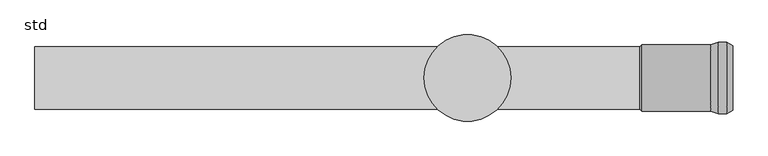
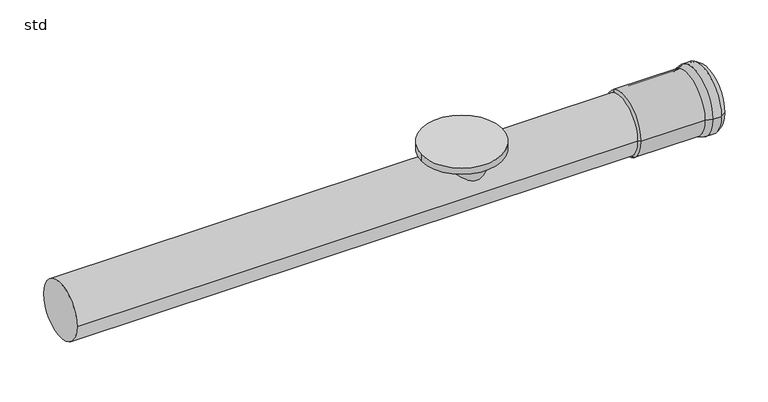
"""IFC4 building model written with IfcOpenShell, lengths in millimetres: pipe fitting geometry, PIF_ST_UN_GM-X raindown pipe_ACO : std."""

from ifc_helpers import new_model, si_unit, point, frame, origin, origin_2d, place, context, project, spatial, polyline, circle_curve, trimmed, segment, composite_curve, outline, extrude, source, transform, mapped, element, save
from ifc_brep_helpers import plane_surface, cylinder_surface, revolved_surface, advanced_brep


def std_49879931(model_context):
    return source(origin(), model_context, "Body", "SolidModel", [
        advanced_brep(
        [(544.2, -51.3, 0.0), (544.2, 51.3, 0.0), (556.8, 51.3, 0.0), (556.8, -51.3, 0.0), (534.0, -47.8, 0.0), (534.0, 47.8, 0.0), (565.0, 46.0, 0.0), (565.0, -46.0, 0.0), (435.0, -47.8, 0.0), (435.0, 47.8, 0.0), (431.7, -44.5, 0.0), (431.7, 44.5, 0.0), (435.0, -44.5, 0.0), (435.0, 44.5, 0.0), (534.3002318, -46.0, 0.0), (534.3002318, 46.0, 0.0), (435.0, 46.0, 0.0), (435.0, -46.0, 0.0), (544.5002318, -49.5, 0.0), (544.5002318, 49.5, 0.0), (556.2689293, -49.5, 0.0), (556.2689293, 49.5, 0.0), (564.0229122, -44.4882793, 0.0), (564.0229122, 44.4882793, 0.0)],
        [
            (0, 1, circle_curve(frame((544.2, 0.0, 0.0), z_axis=(1.0, 0.0, 0.0), x_axis=(0.0, 1.0, 0.0)), 51.3)),
            (1, 2),
            (2, 3, circle_curve(frame((556.8, 0.0, 0.0), z_axis=(-1.0, 0.0, 0.0), x_axis=(0.0, 1.0, 0.0)), 51.3)),
            (3, 0),
            (1, 0, circle_curve(frame((544.2, 0.0, 0.0), z_axis=(1.0, 0.0, 0.0), x_axis=(0.0, 1.0, 0.0)), 51.3)),
            (3, 2, circle_curve(frame((556.8, 0.0, 0.0), z_axis=(-1.0, 0.0, 0.0), x_axis=(0.0, 1.0, 0.0)), 51.3)),
            (4, 5, circle_curve(frame((534.0, 0.0, 0.0), z_axis=(1.0, 0.0, 0.0), x_axis=(0.0, 1.0, 0.0)), 47.8)),
            (5, 1),
            (0, 4),
            (5, 4, circle_curve(frame((534.0, 0.0, 0.0), z_axis=(1.0, 0.0, 0.0), x_axis=(0.0, 1.0, 0.0)), 47.8)),
            (2, 6),
            (6, 7, circle_curve(frame((565.0, 0.0, 0.0), z_axis=(-1.0, 0.0, 0.0), x_axis=(0.0, 1.0, 0.0)), 46.0)),
            (7, 3),
            (7, 6, circle_curve(frame((565.0, 0.0, 0.0), z_axis=(-1.0, 0.0, 0.0), x_axis=(0.0, 1.0, 0.0)), 46.0)),
            (8, 9, circle_curve(frame((435.0, 0.0, 0.0), z_axis=(1.0, 0.0, 0.0), x_axis=(0.0, 1.0, 0.0)), 47.8)),
            (9, 5),
            (4, 8),
            (9, 8, circle_curve(frame((435.0, 0.0, 0.0), z_axis=(1.0, 0.0, 0.0), x_axis=(0.0, 1.0, 0.0)), 47.8)),
            (10, 11, circle_curve(frame((431.7, 0.0, 0.0), z_axis=(1.0, 0.0, 0.0), x_axis=(0.0, 1.0, 0.0)), 44.5)),
            (11, 9),
            (8, 10),
            (11, 10, circle_curve(frame((431.7, 0.0, 0.0), z_axis=(1.0, 0.0, 0.0), x_axis=(0.0, 1.0, 0.0)), 44.5)),
            (12, 13, circle_curve(frame((435.0, 0.0, 0.0), z_axis=(1.0, 0.0, 0.0), x_axis=(0.0, 1.0, 0.0)), 44.5)),
            (13, 11),
            (10, 12),
            (13, 12, circle_curve(frame((435.0, 0.0, 0.0), z_axis=(1.0, 0.0, 0.0), x_axis=(0.0, 1.0, 0.0)), 44.5)),
            (14, 15, circle_curve(frame((534.3002318, 0.0, 0.0), z_axis=(1.0, 0.0, 0.0), x_axis=(0.0, 1.0, 0.0)), 46.0)),
            (15, 16),
            (16, 17, circle_curve(frame((435.0, 0.0, 0.0), z_axis=(-1.0, 0.0, 0.0), x_axis=(0.0, 1.0, 0.0)), 46.0)),
            (17, 14),
            (15, 14, circle_curve(frame((534.3002318, 0.0, 0.0), z_axis=(1.0, 0.0, 0.0), x_axis=(0.0, 1.0, 0.0)), 46.0)),
            (17, 16, circle_curve(frame((435.0, 0.0, 0.0), z_axis=(-1.0, 0.0, 0.0), x_axis=(0.0, 1.0, 0.0)), 46.0)),
            (18, 19, circle_curve(frame((544.5002318, 0.0, 0.0), z_axis=(1.0, 0.0, 0.0), x_axis=(0.0, 1.0, 0.0)), 49.5)),
            (19, 15),
            (14, 18),
            (19, 18, circle_curve(frame((544.5002318, 0.0, 0.0), z_axis=(1.0, 0.0, 0.0), x_axis=(0.0, 1.0, 0.0)), 49.5)),
            (20, 21, circle_curve(frame((556.2689293, 0.0, 0.0), z_axis=(1.0, 0.0, 0.0), x_axis=(0.0, 1.0, 0.0)), 49.5)),
            (21, 19),
            (18, 20),
            (21, 20, circle_curve(frame((556.2689293, 0.0, 0.0), z_axis=(1.0, 0.0, 0.0), x_axis=(0.0, 1.0, 0.0)), 49.5)),
            (22, 23, circle_curve(frame((564.0229122, 0.0, 0.0), z_axis=(1.0, 0.0, 0.0), x_axis=(0.0, 1.0, 0.0)), 44.4882793)),
            (23, 21),
            (20, 22),
            (23, 22, circle_curve(frame((564.0229122, 0.0, 0.0), z_axis=(1.0, 0.0, 0.0), x_axis=(0.0, 1.0, 0.0)), 44.4882793)),
            (6, 23),
            (22, 7),
            (16, 13),
            (12, 17),
        ],
        [
            cylinder_surface(frame((561.6444117, 0.0, 0.0), z_axis=(-1.0, 0.0, 0.0), x_axis=(0.0, 1.0, 0.0)), 51.3),
            revolved_surface(polyline([(544.2, 51.3, 0.0), (534.0, 47.8, 0.0)]), (561.6444117, 0.0, 0.0), (-1.0, 0.0, 0.0)),
            revolved_surface(polyline([(565.0, 46.0, 0.0), (556.8, 51.3, 0.0)]), (561.6444117, 0.0, 0.0), (-1.0, 0.0, 0.0)),
            cylinder_surface(frame((561.6444117, 0.0, 0.0), z_axis=(-1.0, 0.0, 0.0), x_axis=(0.0, 1.0, 0.0)), 47.8),
            revolved_surface(polyline([(435.0, 47.8, 0.0), (431.7, 44.5, 0.0)]), (561.6444117, 0.0, 0.0), (-1.0, 0.0, 0.0)),
            revolved_surface(polyline([(431.7, 44.5, 0.0), (435.0, 44.5, 0.0)]), (561.6444117, 0.0, 0.0), (-1.0, 0.0, 0.0)),
            revolved_surface(polyline([(435.0, 46.0, 0.0), (534.3002318, 46.0, 0.0)]), (561.6444117, 0.0, 0.0), (-1.0, 0.0, 0.0)),
            revolved_surface(polyline([(534.3002318, 46.0, 0.0), (544.5002318, 49.5, 0.0)]), (561.6444117, 0.0, 0.0), (-1.0, 0.0, 0.0)),
            revolved_surface(polyline([(544.5002318, 49.5, 0.0), (556.2689293, 49.5, 0.0)]), (561.6444117, 0.0, 0.0), (-1.0, 0.0, 0.0)),
            revolved_surface(polyline([(556.2689293, 49.5, 0.0), (564.0229122, 44.4882793, 0.0)]), (561.6444117, 0.0, 0.0), (-1.0, 0.0, 0.0)),
            revolved_surface(polyline([(564.0229122, 44.4882793, 0.0), (565.0, 46.0, 0.0)]), (561.6444117, 0.0, 0.0), (-1.0, 0.0, 0.0)),
            plane_surface(frame((435.0, 0.0, 0.0), z_axis=(1.0, 0.0, 0.0), x_axis=(0.0, 1.0, 0.0))),
        ],
        [
            (0, [[1, 2, 3, 4]]),
            (0, [[5, -4, 6, -2]]),
            (1, [[7, 8, -1, 9]]),
            (1, [[10, -9, -5, -8]]),
            (2, [[-3, 11, 12, 13]]),
            (2, [[-6, -13, 14, -11]]),
            (3, [[15, 16, -7, 17]]),
            (3, [[18, -17, -10, -16]]),
            (4, [[19, 20, -15, 21]]),
            (4, [[22, -21, -18, -20]]),
            (5, [[23, 24, -19, 25]]),
            (5, [[26, -25, -22, -24]]),
            (6, [[27, 28, 29, 30]]),
            (6, [[31, -30, 32, -28]]),
            (7, [[33, 34, -27, 35]]),
            (7, [[36, -35, -31, -34]]),
            (8, [[37, 38, -33, 39]]),
            (8, [[40, -39, -36, -38]]),
            (9, [[41, 42, -37, 43]]),
            (9, [[44, -43, -40, -42]]),
            (10, [[-12, 45, -41, 46]]),
            (10, [[-14, -46, -44, -45]]),
            (11, [[-29, 47, -23, 48]]),
            (11, [[-32, -48, -26, -47]]),
        ],
    ),
        advanced_brep(
        [(123.0, 0.0, 58.0), (247.0, 0.0, 58.0), (123.0, 0.0, 48.0), (247.0, 0.0, 48.0), (145.2, 0.0, 48.0), (224.8, 0.0, 48.0), (145.2, 0.0, 0.0), (224.8, 0.0, 0.0)],
        [
            (0, 1, circle_curve(frame((185.0, 0.0, 58.0), z_axis=(0.0, 0.0, 1.0), x_axis=(1.0, 0.0, 0.0)), 62.0)),
            (1, 0, circle_curve(frame((185.0, 0.0, 58.0), z_axis=(0.0, 0.0, 1.0), x_axis=(1.0, 0.0, 0.0)), 62.0)),
            (2, 3, circle_curve(frame((185.0, 0.0, 48.0), z_axis=(0.0, 0.0, -1.0), x_axis=(1.0, 0.0, 0.0)), 62.0)),
            (3, 2, circle_curve(frame((185.0, 0.0, 48.0), z_axis=(0.0, 0.0, -1.0), x_axis=(1.0, 0.0, 0.0)), 62.0)),
            (4, 5, circle_curve(frame((185.0, 0.0, 48.0), z_axis=(0.0, 0.0, 1.0), x_axis=(1.0, 0.0, 0.0)), 39.8)),
            (5, 4, circle_curve(frame((185.0, 0.0, 48.0), z_axis=(0.0, 0.0, 1.0), x_axis=(1.0, 0.0, 0.0)), 39.8)),
            (0, 2),
            (3, 1),
            (6, 7, circle_curve(frame((185.0, 0.0, 0.0), z_axis=(0.0, 0.0, -1.0), x_axis=(1.0, 0.0, 0.0)), 39.8)),
            (7, 6, circle_curve(frame((185.0, 0.0, 0.0), z_axis=(0.0, 0.0, -1.0), x_axis=(1.0, 0.0, 0.0)), 39.8)),
            (7, 5),
            (4, 6),
        ],
        [
            plane_surface(frame((247.0, 0.0, 58.0), z_axis=(0.0, 0.0, 1.0), x_axis=(0.0, 1.0, 0.0))),
            plane_surface(frame((247.0, 0.0, 48.0), z_axis=(0.0, 0.0, -1.0), x_axis=(0.0, -1.0, 0.0))),
            cylinder_surface(frame((185.0, 0.0, 48.0), z_axis=(0.0, 0.0, 1.0), x_axis=(1.0, 0.0, 0.0)), 62.0),
            plane_surface(frame((224.8, 0.0, 0.0), z_axis=(0.0, 0.0, -1.0), x_axis=(0.0, -1.0, 0.0))),
            cylinder_surface(frame((185.0, 0.0, 0.0), z_axis=(0.0, 0.0, 1.0), x_axis=(1.0, 0.0, 0.0)), 39.8),
        ],
        [
            (0, [[1, 2]]),
            (1, [[3, 4], [5, 6]]),
            (2, [[-1, 7, -4, 8]]),
            (2, [[-2, -8, -3, -7]]),
            (3, [[9, 10]]),
            (4, [[-10, 11, -5, 12]]),
            (4, [[-9, -12, -6, -11]]),
        ],
    ),
        extrude(outline(composite_curve([segment(trimmed(circle_curve(origin_2d(), 44.5), [point((-44.5, 0.0))], [point((44.5, 0.0))], False, "CARTESIAN"), True, "CONTINUOUS"), segment(trimmed(circle_curve(origin_2d(), 44.5), [point((44.5, 0.0))], [point((-44.5, 0.0))], False, "CARTESIAN"), True, "CONTINUOUS")], self_intersect=False)), frame((-435.0, 0.0, 0.0), z_axis=(1.0, 0.0, 0.0), x_axis=(0.0, 1.0, 0.0)), (0.0, 0.0, 1.0), 870.0),
    ])


if __name__ == "__main__":
    model = new_model("IFC4")
    model_context = context("Model", 3, world=origin())
    ifc_project = project(units=[si_unit("LENGTHUNIT", "METRE", prefix="MILLI")], contexts=[model_context])
    site = spatial("IfcSite", under=ifc_project)
    building = spatial("IfcBuilding", under=site)
    placement = place(None, origin())
    std_shape = std_49879931(model_context)
    element("IfcPipeFitting", 1, ObjectType="PIF_ST_UN_GM-X raindown pipe_ACO : std", at=placement, inside=building, context=model_context, shape_type="MappedRepresentation", body=[
        mapped(std_shape, transform((0.0, 0.0, 0.0), x_axis=(1.0, 0.0, 0.0), y_axis=(0.0, 1.0, 0.0), z_axis=(0.0, 0.0, 1.0))),
    ])
    save(model, "model.ifc")
